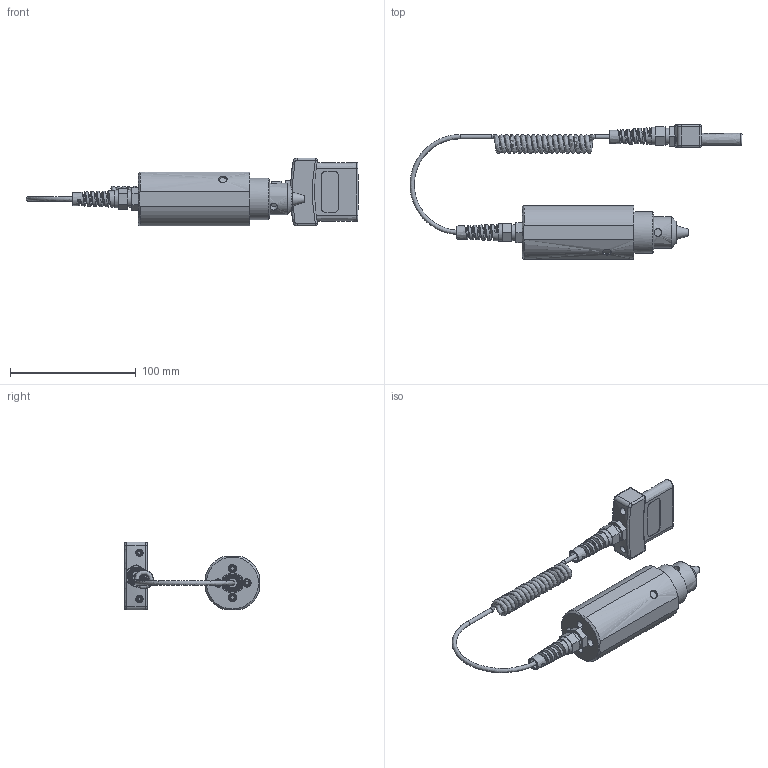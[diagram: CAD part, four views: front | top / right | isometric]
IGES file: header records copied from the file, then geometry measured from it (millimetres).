
Global section: file name: MR50_10Z_20Z_50Z; native system: Autodesk RealDWG; preprocessor: Autodesk Translation Framework DWG producer (atf_dwg_producer); organization: unknown; date: 20180621.100810; units: inch
Bounding box: 264.24 x 107.35 x 54.05 mm (x, y, z)
Volume: 204033.6 mm3; surface area: 47134.5 mm2
Topology: 2 solids, 4 shells, 551 faces, 1465 edges, 961 vertices
Faces by surface type: bspline 551
